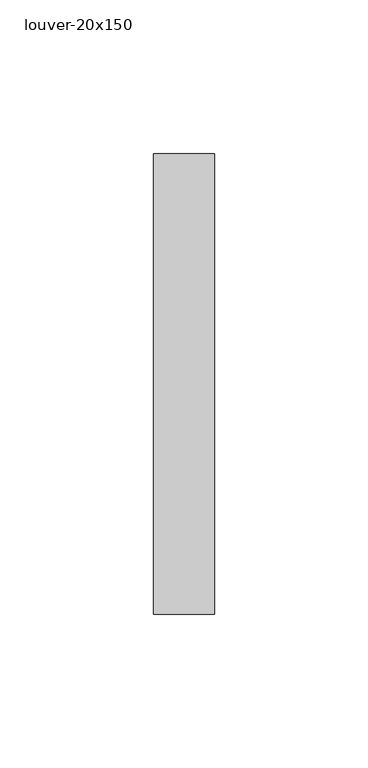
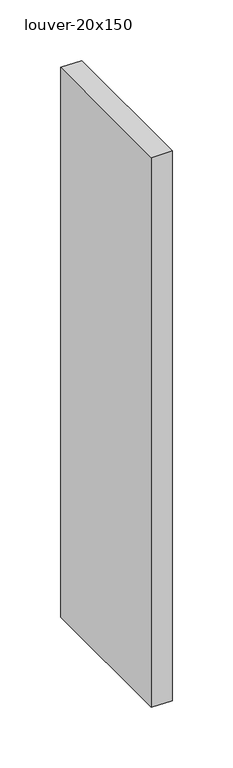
"""IFC4 building model written with IfcOpenShell, lengths in millimetres: member geometry, 長方形マリオン : louver-20x150."""

from ifc_helpers import new_model, si_unit, frame, origin, place, context, project, spatial, polyline, outline, extrude, source, transform, mapped, element, save


def louver_20x150_c1fe2151(model_context):
    return source(origin(), model_context, "Body", "SweptSolid", [
        extrude(outline(polyline([(10.0, 75.0), (10.0, -75.0), (-10.0, -75.0), (-10.0, 75.0), (10.0, 75.0)])), frame((0.0, 0.0, -554.2905914), z_axis=(0.0, 0.0, 1.0), x_axis=(1.0, 0.0, 0.0)), (0.0, 0.0, 1.0), 554.2905914),
    ])


if __name__ == "__main__":
    model = new_model("IFC4")
    model_context = context("Model", 3, world=origin())
    ifc_project = project(units=[si_unit("LENGTHUNIT", "METRE", prefix="MILLI")], contexts=[model_context])
    site = spatial("IfcSite", under=ifc_project)
    building = spatial("IfcBuilding", under=site)
    placement = place(None, origin())
    louver_20x150_shape = louver_20x150_c1fe2151(model_context)
    element("IfcMember", 1, ObjectType="長方形マリオン : louver-20x150", at=placement, inside=building, context=model_context, shape_type="MappedRepresentation", body=[
        mapped(louver_20x150_shape, transform((0.0, 0.0, 0.0), x_axis=(1.0, 0.0, 0.0), y_axis=(0.0, 1.0, 0.0), z_axis=(0.0, 0.0, 1.0))),
    ])
    save(model, "model.ifc")
